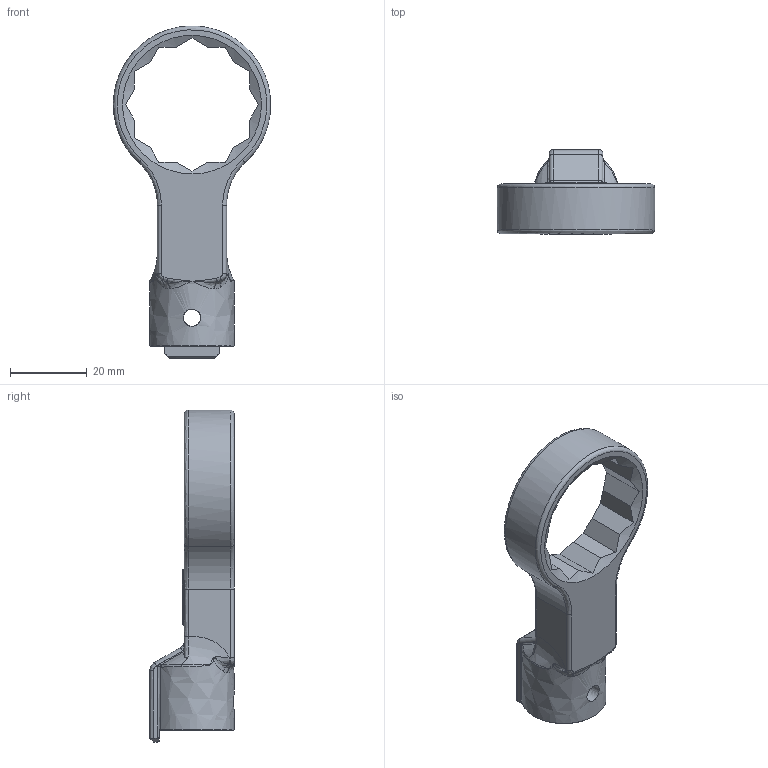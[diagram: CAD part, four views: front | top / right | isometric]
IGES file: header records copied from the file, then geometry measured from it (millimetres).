
Global section: file name: RH15DX30; native system: Autodesk Inventor 2016; preprocessor: unknown; author: Q600; date: 20151110.161552; units: millimetre
Bounding box: 40.98 x 22 x 86.49 mm (x, y, z)
Volume: 16236.7 mm3; surface area: 7880.6 mm2
Topology: 1 solids, 1 shells, 154 faces, 403 edges, 240 vertices
Faces by surface type: bspline 154
